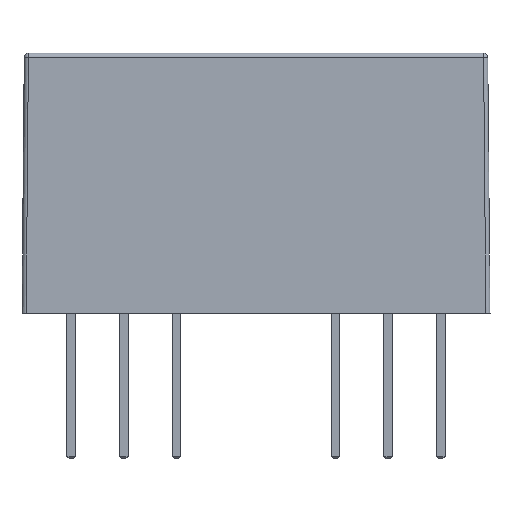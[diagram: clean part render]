
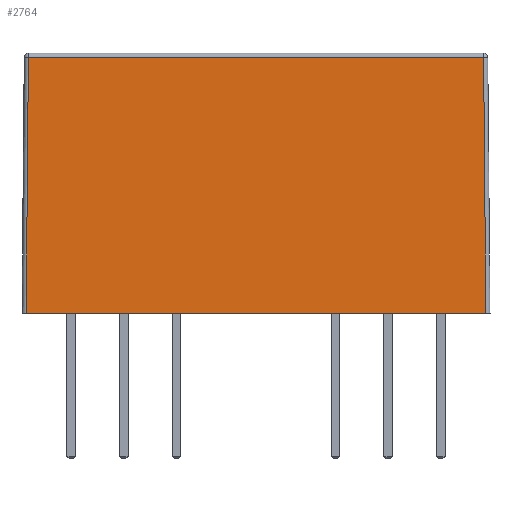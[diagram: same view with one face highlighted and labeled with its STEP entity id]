
A CAD part, front view. The second image highlights one B-rep face of the part: STEP entity #2764.
In plain terms, the highlighted planar face has unit normal (0, -1, 0.009).
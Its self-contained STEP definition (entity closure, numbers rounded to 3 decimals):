
#215=FACE_OUTER_BOUND($,#371,.T.);
#371=EDGE_LOOP($,(#1996,#1997,#1998,#1999));
#517=LINE($,#3903,#865);
#551=LINE($,#3979,#899);
#558=LINE($,#4003,#906);
#565=LINE($,#4021,#913);
#865=VECTOR($,#3131,22.1);
#899=VECTOR($,#3205,12.303);
#906=VECTOR($,#3234,12.303);
#913=VECTOR($,#3257,21.885);
#1209=VERTEX_POINT($,#3889);
#1215=VERTEX_POINT($,#3901);
#1237=VERTEX_POINT($,#3975);
#1241=VERTEX_POINT($,#3995);
#1457=EDGE_CURVE($,#1209,#1215,#517,.T.);
#1494=EDGE_CURVE($,#1209,#1237,#551,.T.);
#1507=EDGE_CURVE($,#1241,#1215,#558,.T.);
#1517=EDGE_CURVE($,#1237,#1241,#565,.T.);
#1996=ORIENTED_EDGE($,*,*,#1494,.F.);
#1997=ORIENTED_EDGE($,*,*,#1457,.T.);
#1998=ORIENTED_EDGE($,*,*,#1507,.F.);
#1999=ORIENTED_EDGE($,*,*,#1517,.F.);
#2621=PLANE($,#2944);
#2764=ADVANCED_FACE($,(#215),#2621,.T.);
#2944=AXIS2_PLACEMENT_3D($,#4034,#3276,#3277);
#3131=DIRECTION($,(1.,0.,0.));
#3205=DIRECTION($,(0.009,0.009,1.));
#3234=DIRECTION($,(0.009,-0.009,-1.));
#3257=DIRECTION($,(1.,0.,0.));
#3276=DIRECTION('center_axis',(0.,-1.,0.009));
#3277=DIRECTION('ref_axis',(1.,0.,0.));
#3889=CARTESIAN_POINT('',(0.2,0.,0.));
#3901=CARTESIAN_POINT('',(22.3,0.,0.));
#3903=CARTESIAN_POINT($,(0.,0.,0.));
#3975=CARTESIAN_POINT('',(0.307,0.107,12.302));
#3979=CARTESIAN_POINT($,(0.201,0.001,0.096));
#3995=CARTESIAN_POINT('',(22.193,0.107,12.302));
#4003=CARTESIAN_POINT($,(22.3,0.,0.042));
#4021=CARTESIAN_POINT($,(16.875,0.107,12.302));
#4034=CARTESIAN_POINT('Origin',(22.5,0.,0.));
